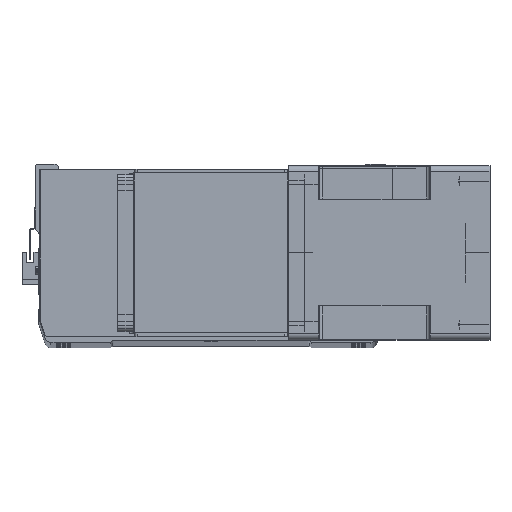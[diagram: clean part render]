
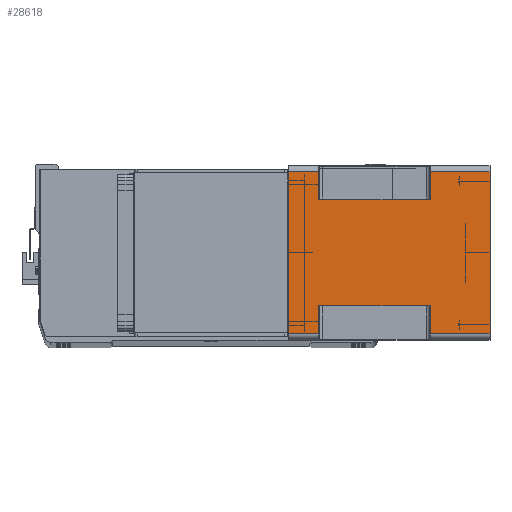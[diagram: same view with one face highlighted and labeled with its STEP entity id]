
A CAD part, top view. The second image highlights one B-rep face of the part: STEP entity #28618.
In plain terms, the highlighted planar face has unit normal (0, 0, 1) as drawn and (1, 0, 0) by its records, which use the part's own axes.
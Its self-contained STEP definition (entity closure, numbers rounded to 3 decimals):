
#283 = VERTEX_POINT ( 'NONE', #21298 ) ;
#517 = CARTESIAN_POINT ( 'NONE',  ( 71., -66., -164. ) ) ;
#743 = VERTEX_POINT ( 'NONE', #16249 ) ;
#1026 = VECTOR ( 'NONE', #4480, 1000. ) ;
#1231 = VERTEX_POINT ( 'NONE', #11098 ) ;
#1312 = VECTOR ( 'NONE', #30814, 1000. ) ;
#1506 = DIRECTION ( 'NONE',  ( 0., 0., -1. ) ) ;
#2571 = EDGE_CURVE ( 'NONE', #11945, #27156, #23386, .T. ) ;
#2824 = VECTOR ( 'NONE', #18960, 1000. ) ;
#2933 = LINE ( 'NONE', #25140, #1312 ) ;
#3013 = EDGE_CURVE ( 'NONE', #4058, #13507, #3585, .T. ) ;
#3242 = VERTEX_POINT ( 'NONE', #23062 ) ;
#3585 = LINE ( 'NONE', #11778, #14659 ) ;
#3719 = ORIENTED_EDGE ( 'NONE', *, *, #14305, .T. ) ;
#4012 = PLANE ( 'NONE',  #13548 ) ;
#4058 = VERTEX_POINT ( 'NONE', #33925 ) ;
#4458 = CARTESIAN_POINT ( 'NONE',  ( 71., 43., -164. ) ) ;
#4480 = DIRECTION ( 'NONE',  ( 0., 1., 0. ) ) ;
#5319 = ORIENTED_EDGE ( 'NONE', *, *, #7743, .F. ) ;
#5902 = CARTESIAN_POINT ( 'NONE',  ( 71., -43., -164. ) ) ;
#6061 = DIRECTION ( 'NONE',  ( 0., 0., 1. ) ) ;
#6162 = VECTOR ( 'NONE', #26317, 1000. ) ;
#6712 = CARTESIAN_POINT ( 'NONE',  ( 71., 66., -164. ) ) ;
#6974 = CARTESIAN_POINT ( 'NONE',  ( 71., 43., -115.5 ) ) ;
#7530 = LINE ( 'NONE', #25996, #30166 ) ;
#7743 = EDGE_CURVE ( 'NONE', #743, #13507, #25080, .T. ) ;
#7863 = VERTEX_POINT ( 'NONE', #6974 ) ;
#8216 = ORIENTED_EDGE ( 'NONE', *, *, #9641, .T. ) ;
#9016 = FACE_OUTER_BOUND ( 'NONE', #10255, .T. ) ;
#9641 = EDGE_CURVE ( 'NONE', #283, #4058, #17510, .T. ) ;
#9770 = ORIENTED_EDGE ( 'NONE', *, *, #12252, .F. ) ;
#10255 = EDGE_LOOP ( 'NONE', ( #16885, #3719, #9770, #18193, #25769, #27505, #32985, #8216, #30565, #5319, #18857, #19211 ) ) ;
#10710 = LINE ( 'NONE', #4458, #25579 ) ;
#11098 = CARTESIAN_POINT ( 'NONE',  ( 71., -43., -115.5 ) ) ;
#11778 = CARTESIAN_POINT ( 'NONE',  ( 71., 66., -164. ) ) ;
#11945 = VERTEX_POINT ( 'NONE', #6712 ) ;
#12252 = EDGE_CURVE ( 'NONE', #33556, #3242, #14343, .T. ) ;
#13507 = VERTEX_POINT ( 'NONE', #31912 ) ;
#13548 = AXIS2_PLACEMENT_3D ( 'NONE', #30566, #17024, #30215 ) ;
#13685 = CARTESIAN_POINT ( 'NONE',  ( 71., -43., -24.5 ) ) ;
#14217 = CARTESIAN_POINT ( 'NONE',  ( 71., 66., -164. ) ) ;
#14305 = EDGE_CURVE ( 'NONE', #1231, #3242, #2933, .T. ) ;
#14343 = LINE ( 'NONE', #517, #2824 ) ;
#14659 = VECTOR ( 'NONE', #25183, 1000. ) ;
#14896 = EDGE_CURVE ( 'NONE', #33556, #11945, #28013, .T. ) ;
#16231 = DIRECTION ( 'NONE',  ( 0., 1., 0. ) ) ;
#16249 = CARTESIAN_POINT ( 'NONE',  ( 71., -66., 0. ) ) ;
#16406 = CARTESIAN_POINT ( 'NONE',  ( 71., -43., -24.5 ) ) ;
#16885 = ORIENTED_EDGE ( 'NONE', *, *, #31353, .F. ) ;
#17024 = DIRECTION ( 'NONE',  ( 1., 0., 0. ) ) ;
#17510 = LINE ( 'NONE', #23123, #1026 ) ;
#18193 = ORIENTED_EDGE ( 'NONE', *, *, #14896, .T. ) ;
#18225 = CARTESIAN_POINT ( 'NONE',  ( 71., 66., -115.5 ) ) ;
#18836 = VERTEX_POINT ( 'NONE', #16406 ) ;
#18857 = ORIENTED_EDGE ( 'NONE', *, *, #33207, .F. ) ;
#18960 = DIRECTION ( 'NONE',  ( 0., 0., 1. ) ) ;
#19211 = ORIENTED_EDGE ( 'NONE', *, *, #25784, .T. ) ;
#19402 = EDGE_CURVE ( 'NONE', #27156, #7863, #7530, .T. ) ;
#20475 = VECTOR ( 'NONE', #21797, 1000. ) ;
#21298 = CARTESIAN_POINT ( 'NONE',  ( 71., 43., -24.5 ) ) ;
#21342 = VECTOR ( 'NONE', #27713, 1000. ) ;
#21649 = CARTESIAN_POINT ( 'NONE',  ( 71., -66., 0. ) ) ;
#21797 = DIRECTION ( 'NONE',  ( 0., 0., 1. ) ) ;
#22203 = CARTESIAN_POINT ( 'NONE',  ( 71., -66., -164. ) ) ;
#22332 = DIRECTION ( 'NONE',  ( 0., 0., 1. ) ) ;
#23062 = CARTESIAN_POINT ( 'NONE',  ( 71., -66., -115.5 ) ) ;
#23123 = CARTESIAN_POINT ( 'NONE',  ( 71., -66., -24.5 ) ) ;
#23386 = LINE ( 'NONE', #14217, #30784 ) ;
#24079 = CARTESIAN_POINT ( 'NONE',  ( 71., -66., -24.5 ) ) ;
#25080 = LINE ( 'NONE', #21649, #21342 ) ;
#25140 = CARTESIAN_POINT ( 'NONE',  ( 71., -66., -115.5 ) ) ;
#25183 = DIRECTION ( 'NONE',  ( 0., 0., 1. ) ) ;
#25579 = VECTOR ( 'NONE', #1506, 1000. ) ;
#25769 = ORIENTED_EDGE ( 'NONE', *, *, #2571, .T. ) ;
#25784 = EDGE_CURVE ( 'NONE', #25853, #18836, #29736, .T. ) ;
#25853 = VERTEX_POINT ( 'NONE', #24079 ) ;
#25996 = CARTESIAN_POINT ( 'NONE',  ( 71., 43., -115.5 ) ) ;
#26317 = DIRECTION ( 'NONE',  ( 0., 1., 0. ) ) ;
#27156 = VERTEX_POINT ( 'NONE', #18225 ) ;
#27312 = VECTOR ( 'NONE', #16231, 1000. ) ;
#27503 = LINE ( 'NONE', #5902, #20475 ) ;
#27505 = ORIENTED_EDGE ( 'NONE', *, *, #19402, .T. ) ;
#27710 = LINE ( 'NONE', #22203, #30961 ) ;
#27713 = DIRECTION ( 'NONE',  ( 0., 1., 0. ) ) ;
#28013 = LINE ( 'NONE', #29261, #6162 ) ;
#28618 = ADVANCED_FACE ( 'NONE', ( #9016 ), #4012, .T. ) ;
#29261 = CARTESIAN_POINT ( 'NONE',  ( 71., -66., -164. ) ) ;
#29736 = LINE ( 'NONE', #13685, #27312 ) ;
#30166 = VECTOR ( 'NONE', #33525, 1000. ) ;
#30215 = DIRECTION ( 'NONE',  ( 0., 1., 0. ) ) ;
#30565 = ORIENTED_EDGE ( 'NONE', *, *, #3013, .T. ) ;
#30566 = CARTESIAN_POINT ( 'NONE',  ( 71., -66., -164. ) ) ;
#30784 = VECTOR ( 'NONE', #6061, 1000. ) ;
#30814 = DIRECTION ( 'NONE',  ( 0., -1., 0. ) ) ;
#30897 = CARTESIAN_POINT ( 'NONE',  ( 71., -66., -164. ) ) ;
#30961 = VECTOR ( 'NONE', #22332, 1000. ) ;
#31353 = EDGE_CURVE ( 'NONE', #1231, #18836, #27503, .T. ) ;
#31912 = CARTESIAN_POINT ( 'NONE',  ( 71., 66., 0. ) ) ;
#32985 = ORIENTED_EDGE ( 'NONE', *, *, #34029, .F. ) ;
#33207 = EDGE_CURVE ( 'NONE', #25853, #743, #27710, .T. ) ;
#33525 = DIRECTION ( 'NONE',  ( 0., -1., 0. ) ) ;
#33556 = VERTEX_POINT ( 'NONE', #30897 ) ;
#33925 = CARTESIAN_POINT ( 'NONE',  ( 71., 66., -24.5 ) ) ;
#34029 = EDGE_CURVE ( 'NONE', #283, #7863, #10710, .T. ) ;
